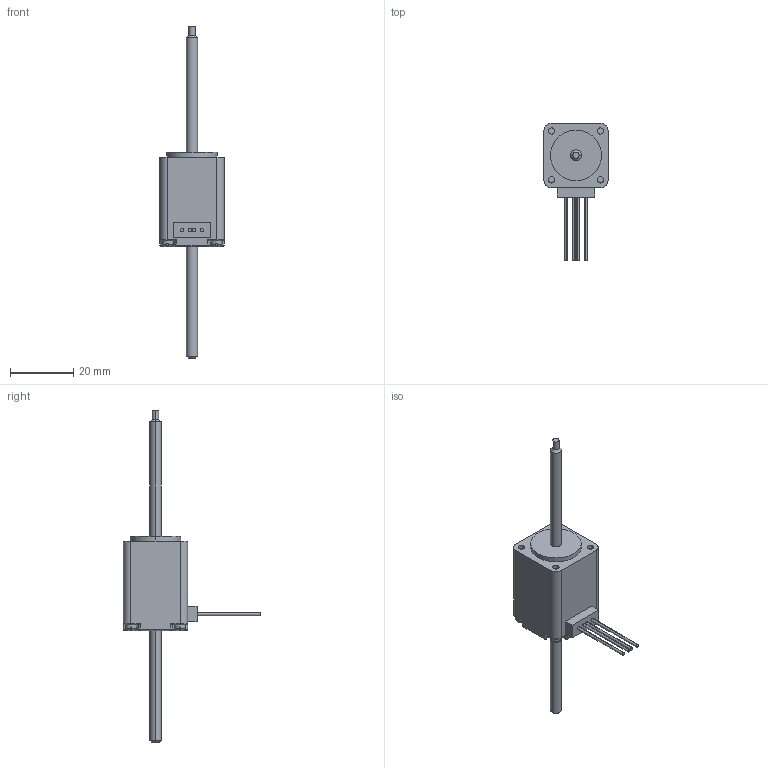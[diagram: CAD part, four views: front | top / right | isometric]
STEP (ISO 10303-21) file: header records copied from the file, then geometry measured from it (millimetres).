
FILE_DESCRIPTION (( 'STEP AP214' ), '1' );
FILE_NAME ('AMETEK-21F4U-2.5-4-12.STEP', '2022-02-28T10:46:50', ( '' ), ( '' ), 'SwSTEP 2.0', 'SolidWorks 2021', '' );
FILE_SCHEMA (( 'AUTOMOTIVE_DESIGN' ));
Length unit declared in the file: inch
Products named in the file (3): 21000_Non_Captive; AMETEK-21F4U-2.5-4-12; 21000_Non_Captive_Screw
Assembly tree (2 placements, depth 2):
  AMETEK-21F4U-2.5-4-12
    21000_Non_Captive
    21000_Non_Captive_Screw
Bounding box: 20.2 x 43.2 x 104.6 mm (x, y, z)
Volume: 12428.3 mm3; surface area: 4995.8 mm2
Topology: 2 solids, 2 shells, 193 faces, 476 edges, 294 vertices
Faces by surface type: plane 87, cylinder 70, torus 24, sphere 8, cone 4
Entity records: 8396 total; most frequent: CARTESIAN_POINT 1240, DIRECTION 1006, ORIENTED_EDGE 936, EDGE_CURVE 468, AXIS2_PLACEMENT_3D 380, VERTEX_POINT 294, VECTOR 246, LINE 246
